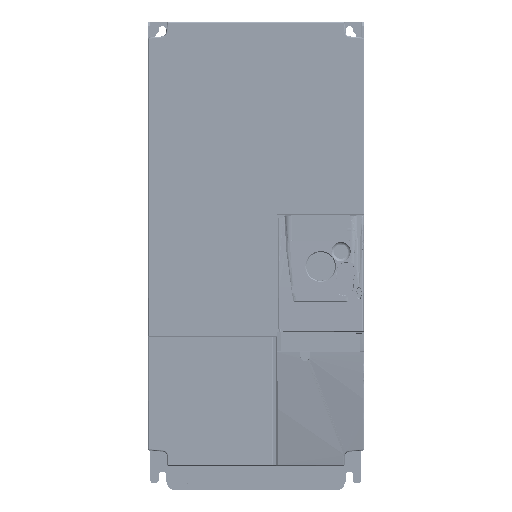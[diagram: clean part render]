
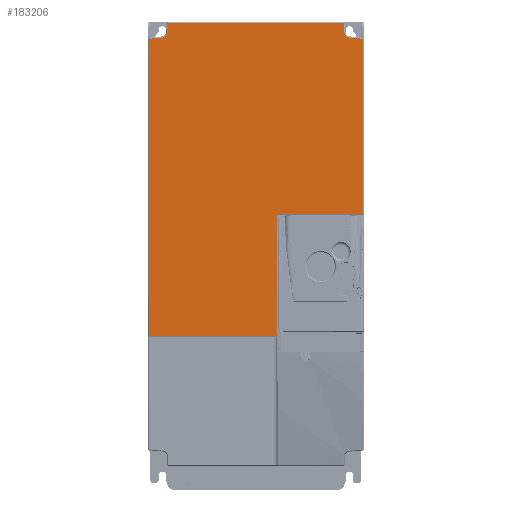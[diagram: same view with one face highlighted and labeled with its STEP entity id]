
A CAD part, top view. The second image highlights one B-rep face of the part: STEP entity #183206.
In plain terms, the highlighted planar face has unit normal (0, 0, 1).
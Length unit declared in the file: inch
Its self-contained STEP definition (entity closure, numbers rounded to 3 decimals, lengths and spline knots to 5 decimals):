
#180688=DIRECTION('',(0.996,0.086,0.));
#180689=VECTOR('',#180688,0.42355);
#180690=CARTESIAN_POINT('',(0.03952,13.63314,
7.48031));
#180691=LINE('',#180690,#180689);
#180692=CARTESIAN_POINT('',(0.44429,13.86624,
7.48031));
#180693=DIRECTION('',(0.,0.,1.));
#180694=DIRECTION('',(0.087,-0.996,0.));
#180695=AXIS2_PLACEMENT_3D('',#180692,#180693,#180694);
#180697=DIRECTION('',(0.085,0.996,0.));
#180698=VECTOR('',#180697,0.29368);
#180699=CARTESIAN_POINT('',(0.64102,13.84903,
7.48031));
#180700=LINE('',#180699,#180698);
#180701=DIRECTION('',(0.085,-0.996,0.));
#180702=VECTOR('',#180701,0.29368);
#180703=CARTESIAN_POINT('',(6.42054,14.14165,
7.48031));
#180704=LINE('',#180703,#180702);
#180705=CARTESIAN_POINT('',(6.64232,13.86624,
7.48031));
#180706=DIRECTION('',(0.,0.,1.));
#180707=DIRECTION('',(-0.996,-0.087,0.));
#180708=AXIS2_PLACEMENT_3D('',#180705,#180706,#180707);
#180710=DIRECTION('',(0.996,-0.086,0.));
#180711=VECTOR('',#180710,0.42355);
#180712=CARTESIAN_POINT('',(6.62511,13.66951,
7.48031));
#180713=LINE('',#180712,#180711);
#180714=DIRECTION('',(-1.,0.,0.));
#180715=VECTOR('',#180714,2.80011);
#180716=CARTESIAN_POINT('',(7.04673,7.88189,
7.48031));
#180717=LINE('',#180716,#180715);
#180731=DIRECTION('',(0.,1.,0.));
#180732=VECTOR('',#180731,4.02397);
#180733=CARTESIAN_POINT('',(4.24661,3.85792,
7.48031));
#180734=LINE('',#180733,#180732);
#181827=DIRECTION('',(1.,0.,0.));
#181828=VECTOR('',#181827,4.20673);
#181829=CARTESIAN_POINT('',(0.03989,3.85792,
7.48031));
#181830=LINE('',#181829,#181828);
#181951=DIRECTION('',(0.,-1.,0.));
#181952=VECTOR('',#181951,9.77522);
#181953=CARTESIAN_POINT('',(0.03952,13.63314,
7.48031));
#181954=LINE('',#181953,#181952);
#182036=DIRECTION('',(-1.,0.,0.));
#182037=VECTOR('',#182036,5.75446);
#182038=CARTESIAN_POINT('',(6.42054,14.14165,
7.48031));
#182039=LINE('',#182038,#182037);
#182135=DIRECTION('',(0.,1.,0.));
#182136=VECTOR('',#182135,5.75125);
#182137=CARTESIAN_POINT('',(7.04673,7.88189,
7.48031));
#182138=LINE('',#182137,#182136);
#182555=CARTESIAN_POINT('',(6.42045,14.14172,
7.48031));
#182556=VERTEX_POINT('',#182555);
#182557=CARTESIAN_POINT('',(6.44559,13.84903,
7.48031));
#182558=VERTEX_POINT('',#182557);
#182561=CARTESIAN_POINT('',(4.24661,3.85792,
7.48031));
#182562=CARTESIAN_POINT('',(4.24661,7.88189,
7.48031));
#182563=VERTEX_POINT('',#182561);
#182564=VERTEX_POINT('',#182562);
#182565=CARTESIAN_POINT('',(0.03989,3.85792,
7.48031));
#182566=VERTEX_POINT('',#182565);
#182567=CARTESIAN_POINT('',(0.03952,13.63314,
7.48031));
#182568=VERTEX_POINT('',#182567);
#182569=CARTESIAN_POINT('',(0.4615,13.66951,
7.48031));
#182570=VERTEX_POINT('',#182569);
#182571=CARTESIAN_POINT('',(0.64102,13.84903,
7.48031));
#182572=VERTEX_POINT('',#182571);
#182573=CARTESIAN_POINT('',(0.66608,14.14165,
7.48031));
#182574=VERTEX_POINT('',#182573);
#182575=CARTESIAN_POINT('',(6.62511,13.66951,
7.48031));
#182576=VERTEX_POINT('',#182575);
#182577=CARTESIAN_POINT('',(7.04709,13.63314,
7.48031));
#182578=VERTEX_POINT('',#182577);
#182579=CARTESIAN_POINT('',(7.04673,7.88189,
7.48031));
#182580=VERTEX_POINT('',#182579);
#183176=CARTESIAN_POINT('',(3.54331,-0.38583,
7.48031));
#183177=DIRECTION('',(0.,0.,1.));
#183178=DIRECTION('',(1.,0.,0.));
#183179=AXIS2_PLACEMENT_3D('',#183176,#183177,#183178);
#183180=PLANE('',#183179);
#183182=ORIENTED_EDGE('',*,*,#183181,.F.);
#183184=ORIENTED_EDGE('',*,*,#183183,.F.);
#183186=ORIENTED_EDGE('',*,*,#183185,.F.);
#183188=ORIENTED_EDGE('',*,*,#183187,.T.);
#183190=ORIENTED_EDGE('',*,*,#183189,.T.);
#183192=ORIENTED_EDGE('',*,*,#183191,.T.);
#183194=ORIENTED_EDGE('',*,*,#183193,.F.);
#183195=ORIENTED_EDGE('',*,*,#183166,.T.);
#183197=ORIENTED_EDGE('',*,*,#183196,.T.);
#183199=ORIENTED_EDGE('',*,*,#183198,.T.);
#183201=ORIENTED_EDGE('',*,*,#183200,.F.);
#183203=ORIENTED_EDGE('',*,*,#183202,.T.);
#183204=EDGE_LOOP('',(#183182,#183184,#183186,#183188,#183190,#183192,#183194,
#183195,#183197,#183199,#183201,#183203));
#183205=FACE_OUTER_BOUND('',#183204,.F.);
#183206=ADVANCED_FACE('',(#183205),#183180,.T.);
#180696=CIRCLE('',#180695,0.19748);
#180709=CIRCLE('',#180708,0.19748);
#183166=EDGE_CURVE('',#182556,#182558,#180704,.T.);
#183181=EDGE_CURVE('',#182563,#182564,#180734,.T.);
#183183=EDGE_CURVE('',#182566,#182563,#181830,.T.);
#183185=EDGE_CURVE('',#182568,#182566,#181954,.T.);
#183187=EDGE_CURVE('',#182568,#182570,#180691,.T.);
#183189=EDGE_CURVE('',#182570,#182572,#180696,.T.);
#183191=EDGE_CURVE('',#182572,#182574,#180700,.T.);
#183193=EDGE_CURVE('',#182556,#182574,#182039,.T.);
#183196=EDGE_CURVE('',#182558,#182576,#180709,.T.);
#183198=EDGE_CURVE('',#182576,#182578,#180713,.T.);
#183200=EDGE_CURVE('',#182580,#182578,#182138,.T.);
#183202=EDGE_CURVE('',#182580,#182564,#180717,.T.);
